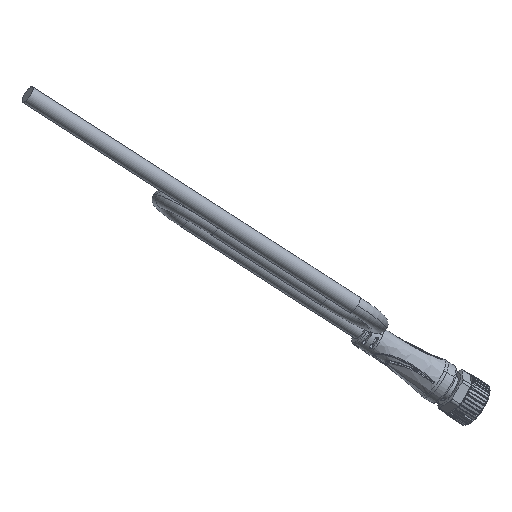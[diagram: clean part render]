
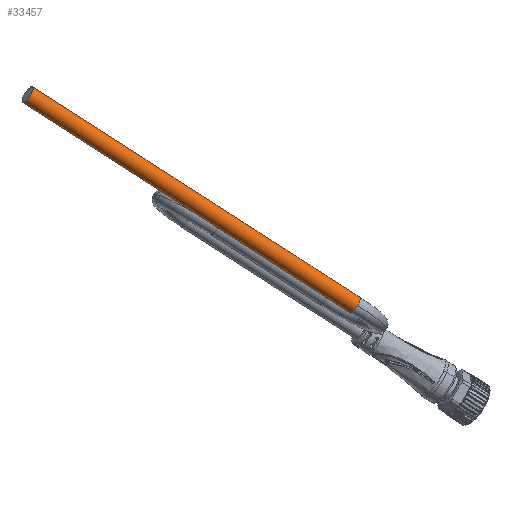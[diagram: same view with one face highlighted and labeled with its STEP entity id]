
A CAD part, top view. The second image highlights one B-rep face of the part: STEP entity #33457.
In plain terms, the highlighted cylindrical face has radius 2 mm (diameter 4 mm), a partial arc.
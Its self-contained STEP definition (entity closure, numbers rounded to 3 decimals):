
#218 = ORIENTED_EDGE ( 'NONE', *, *, #4948, .T. ) ;
#509 = CARTESIAN_POINT ( 'NONE',  ( 0., 40., 0. ) ) ;
#1291 = DIRECTION ( 'NONE',  ( 0., 0., -1. ) ) ;
#1528 = VECTOR ( 'NONE', #33447, 1000. ) ;
#4948 = EDGE_CURVE ( 'NONE', #19776, #6974, #34020, .T. ) ;
#5430 = EDGE_CURVE ( 'NONE', #8493, #6974, #38336, .T. ) ;
#5707 = CARTESIAN_POINT ( 'NONE',  ( 0., 40., -90. ) ) ;
#6144 = AXIS2_PLACEMENT_3D ( 'NONE', #28513, #1291, #24558 ) ;
#6665 = CYLINDRICAL_SURFACE ( 'NONE', #13132, 2. ) ;
#6974 = VERTEX_POINT ( 'NONE', #27645 ) ;
#7403 = EDGE_LOOP ( 'NONE', ( #37798, #10879, #218, #28340, #13553 ) ) ;
#8493 = VERTEX_POINT ( 'NONE', #16091 ) ;
#8670 = DIRECTION ( 'NONE',  ( -1., 0., 0. ) ) ;
#9413 = EDGE_CURVE ( 'NONE', #19829, #8493, #18705, .T. ) ;
#9589 = CARTESIAN_POINT ( 'NONE',  ( -2., 40., 0. ) ) ;
#10879 = ORIENTED_EDGE ( 'NONE', *, *, #16145, .T. ) ;
#12362 = DIRECTION ( 'NONE',  ( 0., 0., -1. ) ) ;
#13132 = AXIS2_PLACEMENT_3D ( 'NONE', #509, #19365, #27941 ) ;
#13553 = ORIENTED_EDGE ( 'NONE', *, *, #9413, .F. ) ;
#16091 = CARTESIAN_POINT ( 'NONE',  ( -2., 40., -90. ) ) ;
#16145 = EDGE_CURVE ( 'NONE', #24423, #19776, #22894, .T. ) ;
#18705 = LINE ( 'NONE', #9589, #35406 ) ;
#19365 = DIRECTION ( 'NONE',  ( 0., 0., -1. ) ) ;
#19776 = VERTEX_POINT ( 'NONE', #20516 ) ;
#19829 = VERTEX_POINT ( 'NONE', #37365 ) ;
#20396 = CARTESIAN_POINT ( 'NONE',  ( 0., 40., 0. ) ) ;
#20516 = CARTESIAN_POINT ( 'NONE',  ( 2., 40., 0. ) ) ;
#20789 = DIRECTION ( 'NONE',  ( 0., 0., -1. ) ) ;
#22894 = CIRCLE ( 'NONE', #26067, 2. ) ;
#23266 = CIRCLE ( 'NONE', #6144, 2. ) ;
#23434 = CARTESIAN_POINT ( 'NONE',  ( 0., 42., 0. ) ) ;
#24423 = VERTEX_POINT ( 'NONE', #23434 ) ;
#24558 = DIRECTION ( 'NONE',  ( -1., 0., 0. ) ) ;
#25092 = CARTESIAN_POINT ( 'NONE',  ( 2., 40., 0. ) ) ;
#26067 = AXIS2_PLACEMENT_3D ( 'NONE', #20396, #32123, #32523 ) ;
#27645 = CARTESIAN_POINT ( 'NONE',  ( 2., 40., -90. ) ) ;
#27941 = DIRECTION ( 'NONE',  ( -1., 0., 0. ) ) ;
#28340 = ORIENTED_EDGE ( 'NONE', *, *, #5430, .F. ) ;
#28513 = CARTESIAN_POINT ( 'NONE',  ( 0., 40., 0. ) ) ;
#32123 = DIRECTION ( 'NONE',  ( 0., 0., -1. ) ) ;
#32523 = DIRECTION ( 'NONE',  ( -1., 0., 0. ) ) ;
#32683 = EDGE_CURVE ( 'NONE', #19829, #24423, #23266, .T. ) ;
#33447 = DIRECTION ( 'NONE',  ( 0., 0., -1. ) ) ;
#33457 = ADVANCED_FACE ( 'NONE', ( #36863 ), #6665, .T. ) ;
#34020 = LINE ( 'NONE', #25092, #1528 ) ;
#35406 = VECTOR ( 'NONE', #12362, 1000. ) ;
#36863 = FACE_OUTER_BOUND ( 'NONE', #7403, .T. ) ;
#37365 = CARTESIAN_POINT ( 'NONE',  ( -2., 40., 0. ) ) ;
#37704 = AXIS2_PLACEMENT_3D ( 'NONE', #5707, #20789, #8670 ) ;
#37798 = ORIENTED_EDGE ( 'NONE', *, *, #32683, .T. ) ;
#38336 = CIRCLE ( 'NONE', #37704, 2. ) ;
